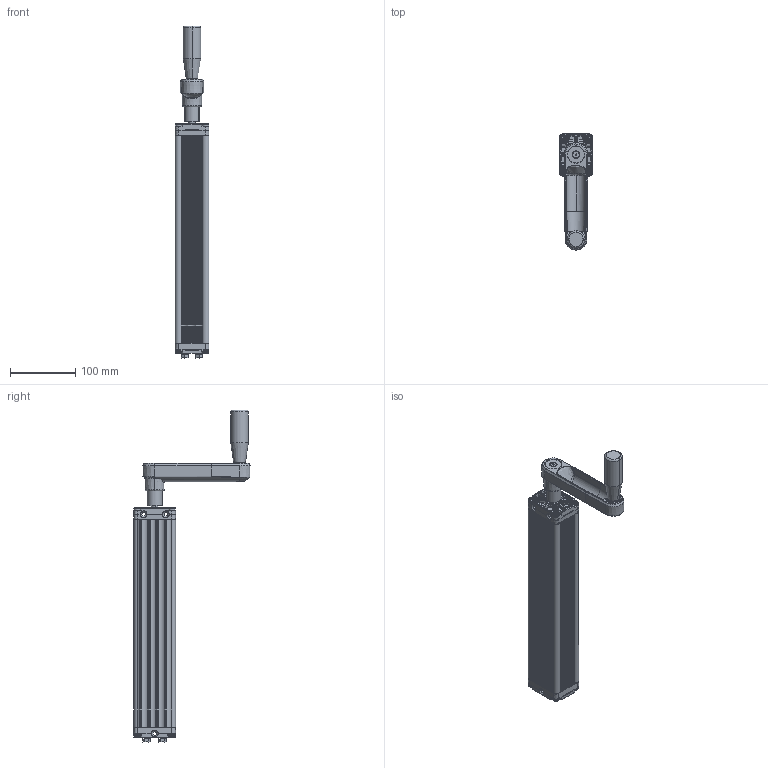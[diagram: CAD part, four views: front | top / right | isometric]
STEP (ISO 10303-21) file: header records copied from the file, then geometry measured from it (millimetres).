
FILE_DESCRIPTION (( 'STEP AP203' ), '1' );
FILE_NAME ('QXY12 Crank.STEP', '2014-01-22T18:53:09', ( '' ), ( '' ), 'SwSTEP 2.0', 'SolidWorks 2013', '' );
FILE_SCHEMA (( 'CONFIG_CONTROL_DESIGN' ));
Length unit declared in the file: millimetre
Products named in the file (1): QXY12 Crank
Bounding box: 52 x 178.32 x 508.84 mm (x, y, z)
Volume: 422613.9 mm3; surface area: 266850.4 mm2
Topology: 31 solids, 31 shells, 3408 faces, 8444 edges, 5143 vertices
Faces by surface type: cylinder 1333, plane 764, cone 476, torus 473, bspline 331, sphere 31
Entity records: 118174 total; most frequent: CARTESIAN_POINT 39462, ORIENTED_EDGE 16782, DIRECTION 16634, EDGE_CURVE 8391, AXIS2_PLACEMENT_3D 6761, VERTEX_POINT 5137, CIRCLE 3683, EDGE_LOOP 3558
